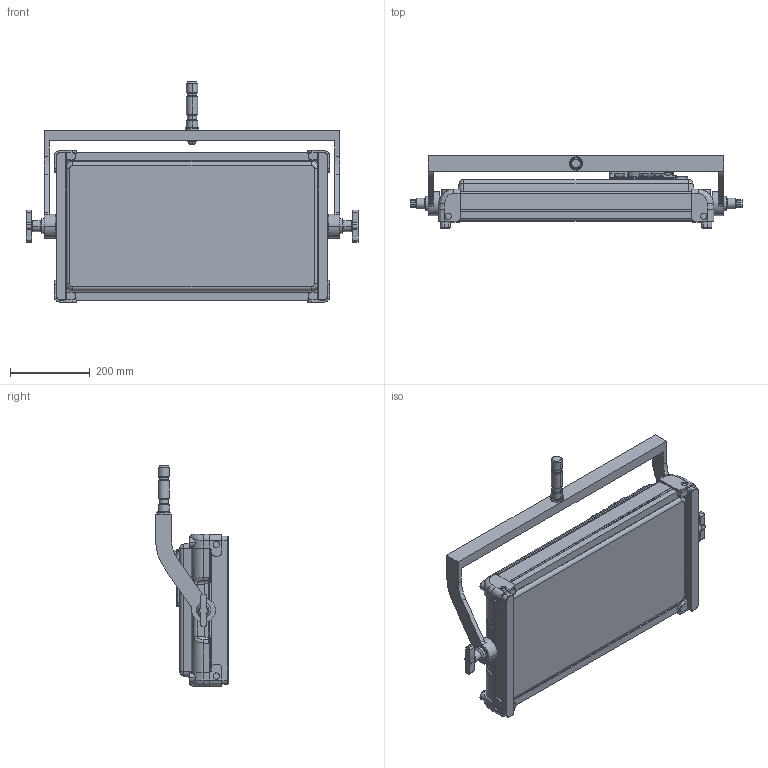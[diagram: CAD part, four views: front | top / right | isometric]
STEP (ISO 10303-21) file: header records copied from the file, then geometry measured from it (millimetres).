
FILE_DESCRIPTION((''),'2;1');
FILE_NAME('V8_SIMPLIFY_YOKE_TOWARD_BOTTOM','2022-07-05T18:26:43',('Evan'),(''),'CREO PARAMETRIC BY PTC INC, 2019010','CREO PARAMETRIC BY PTC INC, 2019010','');
FILE_SCHEMA(('CONFIG_CONTROL_DESIGN'));
Length unit declared in the file: millimetre
Products named in the file (1): V8_SIMPLIFY_YOKE_TOWARD_BOTTOM
Bounding box: 831 x 182 x 551 mm (x, y, z)
Volume: 25780772.6 mm3; surface area: 1102065 mm2
Topology: 1 solids, 2 shells, 914 faces, 2586 edges, 1713 vertices
Faces by surface type: plane 359, cylinder 307, torus 83, extrusion 80, cone 34, bspline 29, sphere 22
Entity records: 32871 total; most frequent: CARTESIAN_POINT 9444, ORIENTED_EDGE 4900, DIRECTION 4648, EDGE_CURVE 2564, VERTEX_POINT 1713, AXIS2_PLACEMENT_3D 1629, VECTOR 1390, LINE 1310
